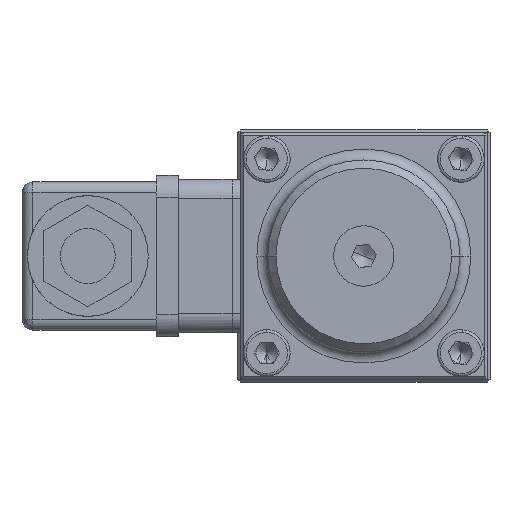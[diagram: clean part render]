
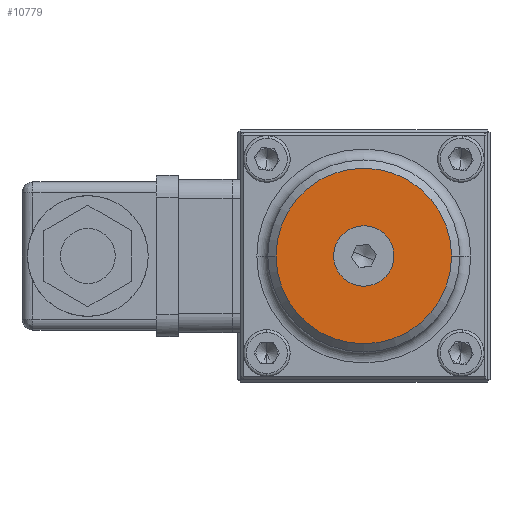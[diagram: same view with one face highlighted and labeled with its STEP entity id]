
A CAD part, left-side view. The second image highlights one B-rep face of the part: STEP entity #10779.
In plain terms, the highlighted planar face has unit normal (-1, 0, 0).
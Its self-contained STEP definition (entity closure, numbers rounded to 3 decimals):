
#237 = DIRECTION ( 'NONE',  ( -1., 0., 0. ) ) ;
#313 = CIRCLE ( 'NONE', #17106, 5.5 ) ;
#959 = CARTESIAN_POINT ( 'NONE',  ( -89.3, 0., 0. ) ) ;
#1089 = EDGE_CURVE ( 'NONE', #21746, #1483, #21907, .T. ) ;
#1459 = CARTESIAN_POINT ( 'NONE',  ( -89.3, 5.083, 2.1 ) ) ;
#1483 = VERTEX_POINT ( 'NONE', #22330 ) ;
#3049 = DIRECTION ( 'NONE',  ( 0., -0.924, -0.382 ) ) ;
#3462 = CARTESIAN_POINT ( 'NONE',  ( -89.3, 0., 0. ) ) ;
#4020 = EDGE_CURVE ( 'NONE', #15149, #14231, #313, .T. ) ;
#4730 = CIRCLE ( 'NONE', #10801, 5.5 ) ;
#6313 = ORIENTED_EDGE ( 'NONE', *, *, #9240, .F. ) ;
#8773 = CARTESIAN_POINT ( 'NONE',  ( -89.3, 0., 0. ) ) ;
#9054 = PLANE ( 'NONE',  #12185 ) ;
#9240 = EDGE_CURVE ( 'NONE', #14231, #15149, #4730, .T. ) ;
#9252 = ORIENTED_EDGE ( 'NONE', *, *, #11856, .T. ) ;
#10468 = ORIENTED_EDGE ( 'NONE', *, *, #1089, .T. ) ;
#10779 = ADVANCED_FACE ( 'NONE', ( #21786, #14801 ), #9054, .T. ) ;
#10801 = AXIS2_PLACEMENT_3D ( 'NONE', #8773, #19362, #3049 ) ;
#11144 = AXIS2_PLACEMENT_3D ( 'NONE', #22301, #22427, #11859 ) ;
#11856 = EDGE_CURVE ( 'NONE', #1483, #21746, #14621, .T. ) ;
#11859 = DIRECTION ( 'NONE',  ( 0., 0., 1. ) ) ;
#12185 = AXIS2_PLACEMENT_3D ( 'NONE', #12540, #23424, #21673 ) ;
#12540 = CARTESIAN_POINT ( 'NONE',  ( -89.3, 22.5, -22.5 ) ) ;
#13617 = EDGE_LOOP ( 'NONE', ( #9252, #10468 ) ) ;
#13785 = DIRECTION ( 'NONE',  ( 0., -0.924, -0.382 ) ) ;
#14231 = VERTEX_POINT ( 'NONE', #1459 ) ;
#14621 = CIRCLE ( 'NONE', #11144, 16. ) ;
#14801 = FACE_OUTER_BOUND ( 'NONE', #13617, .T. ) ;
#15149 = VERTEX_POINT ( 'NONE', #22071 ) ;
#15768 = DIRECTION ( 'NONE',  ( -1., 0., 0. ) ) ;
#17106 = AXIS2_PLACEMENT_3D ( 'NONE', #959, #15768, #13785 ) ;
#17790 = CARTESIAN_POINT ( 'NONE',  ( -89.3, -16., 0. ) ) ;
#18855 = ORIENTED_EDGE ( 'NONE', *, *, #4020, .F. ) ;
#19362 = DIRECTION ( 'NONE',  ( -1., 0., 0. ) ) ;
#20080 = EDGE_LOOP ( 'NONE', ( #18855, #6313 ) ) ;
#21673 = DIRECTION ( 'NONE',  ( 0., 0., 1. ) ) ;
#21679 = DIRECTION ( 'NONE',  ( 0., 0., 1. ) ) ;
#21746 = VERTEX_POINT ( 'NONE', #17790 ) ;
#21786 = FACE_BOUND ( 'NONE', #20080, .T. ) ;
#21907 = CIRCLE ( 'NONE', #23044, 16. ) ;
#22071 = CARTESIAN_POINT ( 'NONE',  ( -89.3, -5.083, -2.1 ) ) ;
#22301 = CARTESIAN_POINT ( 'NONE',  ( -89.3, 0., 0. ) ) ;
#22330 = CARTESIAN_POINT ( 'NONE',  ( -89.3, 16., 0. ) ) ;
#22427 = DIRECTION ( 'NONE',  ( -1., 0., 0. ) ) ;
#23044 = AXIS2_PLACEMENT_3D ( 'NONE', #3462, #237, #21679 ) ;
#23424 = DIRECTION ( 'NONE',  ( -1., 0., 0. ) ) ;
